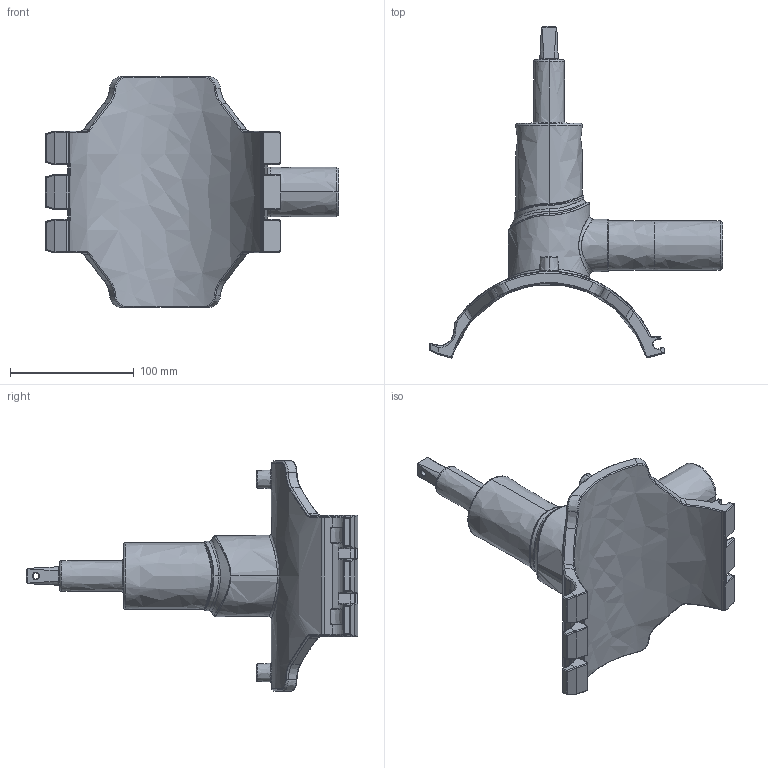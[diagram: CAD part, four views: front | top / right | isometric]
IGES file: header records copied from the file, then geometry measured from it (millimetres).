
Start section:  PTC IGES file: dav2_d160_40_01.igs
Global section: file name: dav2_d160_40_01.igs; native system: Creo Parametric by PTC Inc.; preprocessor: 2019030; author: demmerls; organization: Unknown; date: 20201127.105235; units: millimetre
Bounding box: 236.52 x 267.9 x 186 mm (x, y, z)
Surface area: 124346.4 mm2 (no closed solid volume)
Topology: 0 solids, 0 shells, 571 faces, 2768 edges, 2762 vertices
Faces by surface type: bspline 571
